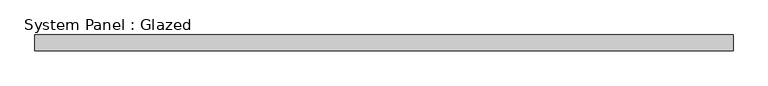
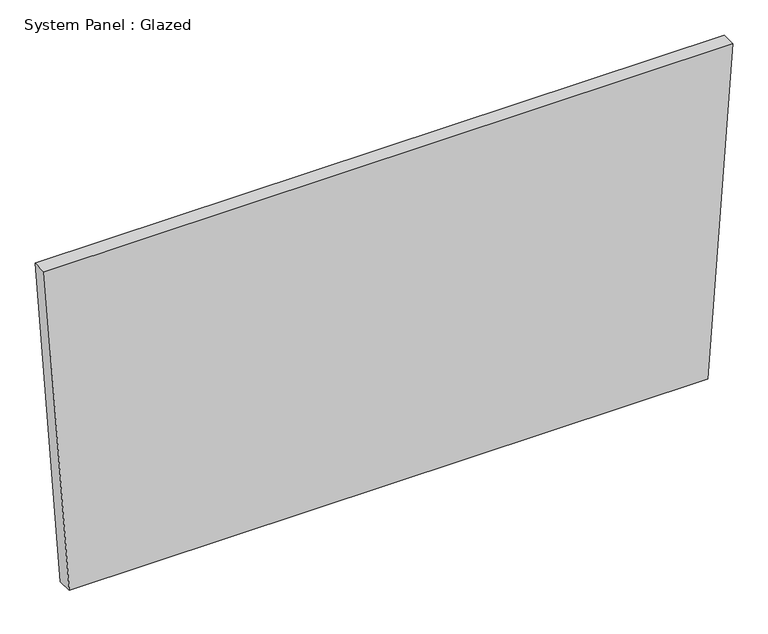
"""IFC4 building model written with IfcOpenShell, lengths in millimetres: plate geometry, System Panel : Glazed."""

import ifcopenshell
import ifcopenshell.guid

model = None  # the IFC model being written
_history = None  # IfcOwnerHistory: only IFC2X3 demands one
_inside = {}  # id of a spatial element -> (the spatial element, [elements in it])
_under = {}  # id of a project, library or spatial element -> (it, [spatial elements below it])
_declared = {}  # id of a project -> (the project, [libraries it declares])
_typed = {}  # id of a type object -> (the type object, [elements of that type])
_made_of = {}  # id of a material, layer set ... -> (it, [elements and type objects made of it])


def new_model(schema):
    """Start an empty IFC model of exactly this schema.

    Asked for "IFC4X3", IfcOpenShell would pick the latest addendum, in which some entities
    have other attributes; the version numbers below select the first issue.
    IFC2X3 requires an IfcOwnerHistory on every rooted entity: one is made here for all.
    """
    global model, _history
    if schema == "IFC4X3":
        model = ifcopenshell.file(schema_version=(4, 3, 0, 0))
    else:
        model = ifcopenshell.file(schema=schema)
    _inside.clear()
    _under.clear()
    _declared.clear()
    _typed.clear()
    _made_of.clear()
    _history = None
    if model.schema == "IFC2X3":
        org = make("IfcOrganization", Name="unknown")
        user = make(
            "IfcPersonAndOrganization",
            ThePerson=make("IfcPerson", FamilyName="unknown"),
            TheOrganization=org,
        )
        app = make(
            "IfcApplication",
            ApplicationDeveloper=org,
            Version="unknown",
            ApplicationFullName="unknown",
            ApplicationIdentifier="unknown",
        )
        _history = make(
            "IfcOwnerHistory",
            OwningUser=user,
            OwningApplication=app,
            ChangeAction="ADDED",
            CreationDate=0,
        )
    return model


def make(cls, **values):
    """One entity of the class cls with the attributes given. An attribute that is None is left unset."""
    return model.create_entity(
        cls, **{name: value for name, value in values.items() if value is not None}
    )


def rooted(cls, **values):
    """An entity with a GlobalId (a new one), such as an element, a storey or a relation."""
    return make(cls, GlobalId=ifcopenshell.guid.new(), OwnerHistory=_history, **values)


def si_unit(unit_type, name, prefix=None):
    """IfcSIUnit, for example si_unit("LENGTHUNIT", "METRE", prefix="MILLI")."""
    return make("IfcSIUnit", UnitType=unit_type, Prefix=prefix, Name=name)


def assignment(units):
    """IfcUnitAssignment: the units of a project."""
    return None if units is None else make("IfcUnitAssignment", Units=units)


def point(xyz):
    """IfcCartesianPoint."""
    return None if xyz is None else make("IfcCartesianPoint", Coordinates=xyz)


def direction(xyz):
    """IfcDirection."""
    return None if xyz is None else make("IfcDirection", DirectionRatios=xyz)


def frame(location, z_axis=None, x_axis=None):
    """IfcAxis2Placement3D, a coordinate frame: its origin and axes. An axis left out is left unset."""
    return make(
        "IfcAxis2Placement3D",
        Location=point(location),
        Axis=direction(z_axis),
        RefDirection=direction(x_axis),
    )


def origin():
    """The frame at (0, 0, 0) with its axes left unset."""
    return frame((0.0, 0.0, 0.0))


def place(relative_to, where):
    """IfcLocalPlacement: puts the frame where relative to a parent placement (None: the world)."""
    return make(
        "IfcLocalPlacement", PlacementRelTo=relative_to, RelativePlacement=where
    )


def context(
    kind, dimensions, precision=None, world=None, true_north=None, identifier=None
):
    """IfcGeometricRepresentationContext, for example the 3D "Model" context."""
    return make(
        "IfcGeometricRepresentationContext",
        ContextIdentifier=identifier,
        ContextType=kind,
        CoordinateSpaceDimension=dimensions,
        Precision=precision,
        WorldCoordinateSystem=world,
        TrueNorth=true_north,
    )


def project(units=None, contexts=None):
    """IfcProject with its units and contexts."""
    return rooted(
        "IfcProject",
        Name="project",
        RepresentationContexts=contexts,
        UnitsInContext=assignment(units),
    )


def spatial(cls, under=None, at=None, **own):
    """A site, building, storey or space (cls), placed at a placement, below another one or the project."""
    s = rooted(cls, ObjectPlacement=at, **own)
    if under is not None:
        _under.setdefault(under.id(), (under, []))[1].append(s)
    return s


def polyline(points):
    """IfcPolyline through the points."""
    return make("IfcPolyline", Points=[point(p) for p in points])


def outline(outer, holes=None, kind="AREA"):
    """IfcArbitraryClosedProfileDef: a profile drawn as a closed curve; with holes, ...WithVoids."""
    if holes is None:
        return make("IfcArbitraryClosedProfileDef", ProfileType=kind, OuterCurve=outer)
    return make(
        "IfcArbitraryProfileDefWithVoids",
        ProfileType=kind,
        OuterCurve=outer,
        InnerCurves=holes,
    )


def extrude(swept, where, along, depth):
    """IfcExtrudedAreaSolid: the profile swept, set in the frame where, extruded along a direction by depth."""
    return make(
        "IfcExtrudedAreaSolid",
        SweptArea=swept,
        Position=where,
        ExtrudedDirection=direction(along),
        Depth=depth,
    )


def shape(context_of_items, identifier, shape_type, items):
    """IfcShapeRepresentation: the items that make up one representation, for example the "Body"."""
    return make(
        "IfcShapeRepresentation",
        ContextOfItems=context_of_items,
        RepresentationIdentifier=identifier,
        RepresentationType=shape_type,
        Items=items,
    )


def source(mapping_origin, context_of_items, identifier, shape_type, items):
    """IfcRepresentationMap: a shape defined once, which mapped items show again and again."""
    return make(
        "IfcRepresentationMap",
        MappingOrigin=mapping_origin,
        MappedRepresentation=shape(context_of_items, identifier, shape_type, items),
    )


def transform(
    local_origin,
    x_axis=None,
    y_axis=None,
    z_axis=None,
    scale=None,
    scale2=None,
    scale3=None,
    uniform=True,
):
    """IfcCartesianTransformationOperator3D, or its non-uniform kind. x_axis, y_axis, z_axis: its Axis1, 2, 3."""
    if uniform:
        return make(
            "IfcCartesianTransformationOperator3D",
            Axis1=direction(x_axis),
            Axis2=direction(y_axis),
            LocalOrigin=point(local_origin),
            Scale=scale,
            Axis3=direction(z_axis),
        )
    return make(
        "IfcCartesianTransformationOperator3DnonUniform",
        Axis1=direction(x_axis),
        Axis2=direction(y_axis),
        LocalOrigin=point(local_origin),
        Scale=scale,
        Axis3=direction(z_axis),
        Scale2=scale2,
        Scale3=scale3,
    )


def mapped(mapping_source, mapping_target):
    """IfcMappedItem: shows the shape of a source again, moved by a transform."""
    return make(
        "IfcMappedItem", MappingSource=mapping_source, MappingTarget=mapping_target
    )


def made_of(thing, what):
    """Note that an element or type object is made of a material, layer set ...; save() writes the relation."""
    if what is not None:
        _made_of.setdefault(what.id(), (what, []))[1].append(thing)
    return thing


def element(
    cls,
    number,
    at=None,
    inside=None,
    cuts=None,
    type_object=None,
    material=None,
    context=None,
    identifier="Body",
    shape_type=None,
    held_by="IfcProductDefinitionShape",
    body=None,
    shapes=None,
    **own,
):
    """One element of the class cls, such as IfcWall. Its Tag is "e" and its number.

    at: its placement. inside: the storey or other place that contains it. cuts: it is an
    opening in that element (IfcRelVoidsElement). A single representation is given by context,
    identifier, shape_type and body (its items); several are given by shapes. held_by: the class
    of the entity that holds the representations. save() writes the other relations.
    """
    e = rooted(cls, Tag="e%d" % number, ObjectPlacement=at, **own)
    if body is not None:
        shapes = [shape(context, identifier, shape_type, body)]
    if shapes is not None:
        e.Representation = make(held_by, Representations=shapes)
    if inside is not None:
        _inside.setdefault(inside.id(), (inside, []))[1].append(e)
    if cuts is not None:
        rooted(
            "IfcRelVoidsElement", RelatingBuildingElement=cuts, RelatedOpeningElement=e
        )
    if type_object is not None:
        _typed.setdefault(type_object.id(), (type_object, []))[1].append(e)
    return made_of(e, material)


def aggregate(whole, parts):
    """IfcRelAggregates: a whole, such as a stair, and the parts it consists of."""
    return rooted("IfcRelAggregates", RelatingObject=whole, RelatedObjects=parts)


def save(model, path):
    """Write the relations noted so far, then the file.

    IfcRelAggregates (storeys below a building ...), IfcRelContainedInSpatialStructure (elements
    in a storey), IfcRelDefinesByType, IfcRelAssociatesMaterial and IfcRelDeclares: one each for
    every whole, place, type object, material and project.
    """
    for whole, parts in _under.values():
        aggregate(whole, parts)
    for where, things in _inside.values():
        rooted(
            "IfcRelContainedInSpatialStructure",
            RelatedElements=things,
            RelatingStructure=where,
        )
    for kind, things in _typed.values():
        rooted("IfcRelDefinesByType", RelatedObjects=things, RelatingType=kind)
    for what, things in _made_of.values():
        rooted("IfcRelAssociatesMaterial", RelatedObjects=things, RelatingMaterial=what)
    for by, libraries in _declared.values():
        rooted("IfcRelDeclares", RelatingContext=by, RelatedDefinitions=libraries)
    model.write(path)


def system_panel_glazed_d9dfaa20(model_context):
    return source(origin(), model_context, "Body", "SweptSolid", [
        extrude(outline(polyline([(0.0, -526.1217367), (0.0, 526.1217367), (569.8901817, 567.6203521), (569.8901817, -567.6203521), (0.0, -526.1217367)])), frame((0.0, 19.05, 0.0), z_axis=(0.0, 1.0, 0.0), x_axis=(0.0, 0.0, 1.0)), (0.0, 0.0, 1.0), 25.4),
    ])


if __name__ == "__main__":
    model = new_model("IFC4")
    model_context = context("Model", 3, world=origin())
    ifc_project = project(units=[si_unit("LENGTHUNIT", "METRE", prefix="MILLI")], contexts=[model_context])
    site = spatial("IfcSite", under=ifc_project)
    building = spatial("IfcBuilding", under=site)
    placement = place(None, origin())
    system_panel_glazed_shape = system_panel_glazed_d9dfaa20(model_context)
    element("IfcPlate", 1, ObjectType="System Panel : Glazed", at=placement, inside=building, context=model_context, shape_type="MappedRepresentation", body=[
        mapped(system_panel_glazed_shape, transform((0.0, 0.0, 0.0), x_axis=(1.0, 0.0, 0.0), y_axis=(0.0, 1.0, 0.0), z_axis=(0.0, 0.0, 1.0))),
    ])
    save(model, "model.ifc")
